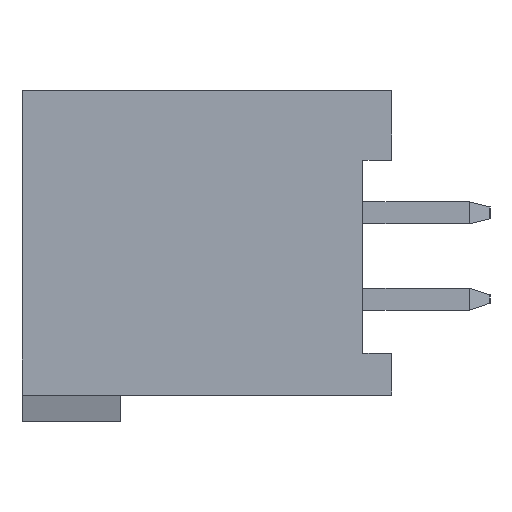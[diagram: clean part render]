
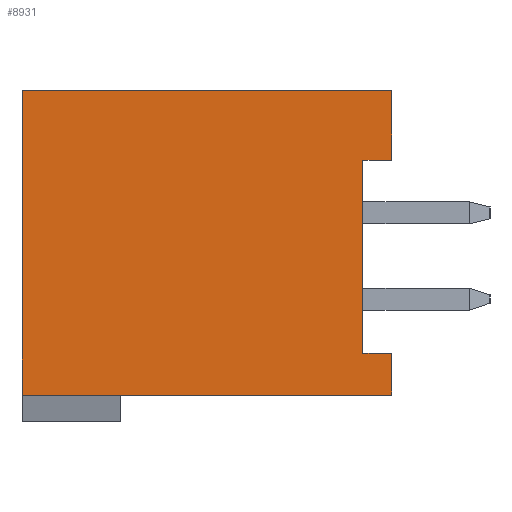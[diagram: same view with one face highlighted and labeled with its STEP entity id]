
A CAD part, left-side view. The second image highlights one B-rep face of the part: STEP entity #8931.
In plain terms, the highlighted planar face has unit normal (-1, 0, 0).
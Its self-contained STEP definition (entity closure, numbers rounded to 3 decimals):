
#933=DIRECTION('',(0.,0.,1.));
#934=VECTOR('',#933,2.05);
#935=CARTESIAN_POINT('',(-22.76,-5.45,2.825));
#936=LINE('',#935,#934);
#953=DIRECTION('',(0.,0.,1.));
#954=VECTOR('',#953,1.225);
#955=CARTESIAN_POINT('',(-22.76,-5.45,-4.1));
#956=LINE('',#955,#954);
#977=DIRECTION('',(0.,-1.,0.));
#978=VECTOR('',#977,10.9);
#979=CARTESIAN_POINT('',(-22.76,5.45,-4.1));
#980=LINE('',#979,#978);
#981=DIRECTION('',(0.,0.,1.));
#982=VECTOR('',#981,8.975);
#983=CARTESIAN_POINT('',(-22.76,5.45,-4.1));
#984=LINE('',#983,#982);
#985=DIRECTION('',(0.,1.,0.));
#986=VECTOR('',#985,0.85);
#987=CARTESIAN_POINT('',(-22.76,-5.45,2.825));
#988=LINE('',#987,#986);
#989=DIRECTION('',(0.,0.,1.));
#990=VECTOR('',#989,5.7);
#991=CARTESIAN_POINT('',(-22.76,-4.6,-2.875));
#992=LINE('',#991,#990);
#993=DIRECTION('',(0.,1.,0.));
#994=VECTOR('',#993,0.85);
#995=CARTESIAN_POINT('',(-22.76,-5.45,-2.875));
#996=LINE('',#995,#994);
#1001=DIRECTION('',(0.,-1.,0.));
#1002=VECTOR('',#1001,10.9);
#1003=CARTESIAN_POINT('',(-22.76,5.45,4.875));
#1004=LINE('',#1003,#1002);
#6105=CARTESIAN_POINT('',(-22.76,5.45,4.875));
#6106=CARTESIAN_POINT('',(-22.76,-5.45,4.875));
#6107=VERTEX_POINT('',#6105);
#6108=VERTEX_POINT('',#6106);
#6125=CARTESIAN_POINT('',(-22.76,-5.45,-2.875));
#6126=CARTESIAN_POINT('',(-22.76,-4.6,-2.875));
#6127=VERTEX_POINT('',#6125);
#6128=VERTEX_POINT('',#6126);
#6129=CARTESIAN_POINT('',(-22.76,-4.6,2.825));
#6130=VERTEX_POINT('',#6129);
#6131=CARTESIAN_POINT('',(-22.76,-5.45,2.825));
#6132=VERTEX_POINT('',#6131);
#6219=CARTESIAN_POINT('',(-22.76,5.45,-4.1));
#6220=CARTESIAN_POINT('',(-22.76,-5.45,-4.1));
#6221=VERTEX_POINT('',#6219);
#6222=VERTEX_POINT('',#6220);
#8914=CARTESIAN_POINT('',(-22.76,5.45,-4.875));
#8915=DIRECTION('',(-1.,0.,0.));
#8916=DIRECTION('',(0.,-1.,0.));
#8917=AXIS2_PLACEMENT_3D('',#8914,#8915,#8916);
#8918=PLANE('',#8917);
#8919=ORIENTED_EDGE('',*,*,#8159,.F.);
#8920=ORIENTED_EDGE('',*,*,#8047,.T.);
#8922=ORIENTED_EDGE('',*,*,#8921,.T.);
#8923=ORIENTED_EDGE('',*,*,#8866,.F.);
#8924=ORIENTED_EDGE('',*,*,#8427,.T.);
#8925=ORIENTED_EDGE('',*,*,#8468,.F.);
#8927=ORIENTED_EDGE('',*,*,#8926,.F.);
#8928=ORIENTED_EDGE('',*,*,#8893,.F.);
#8929=EDGE_LOOP('',(#8919,#8920,#8922,#8923,#8924,#8925,#8927,#8928));
#8930=FACE_OUTER_BOUND('',#8929,.F.);
#8931=ADVANCED_FACE('',(#8930),#8918,.T.);
#8047=EDGE_CURVE('',#6221,#6107,#984,.T.);
#8159=EDGE_CURVE('',#6221,#6222,#980,.T.);
#8427=EDGE_CURVE('',#6132,#6130,#988,.T.);
#8468=EDGE_CURVE('',#6128,#6130,#992,.T.);
#8866=EDGE_CURVE('',#6132,#6108,#936,.T.);
#8893=EDGE_CURVE('',#6222,#6127,#956,.T.);
#8921=EDGE_CURVE('',#6107,#6108,#1004,.T.);
#8926=EDGE_CURVE('',#6127,#6128,#996,.T.);
